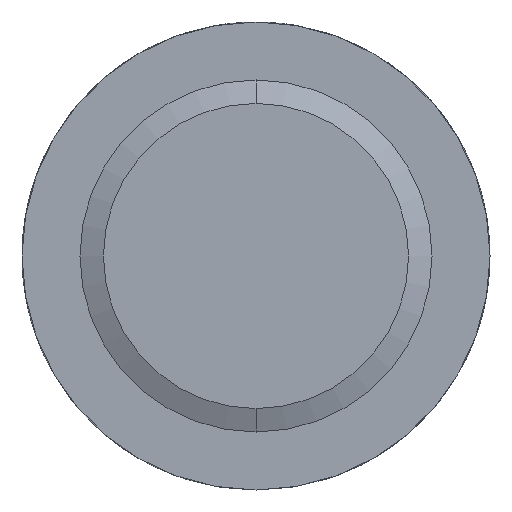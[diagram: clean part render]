
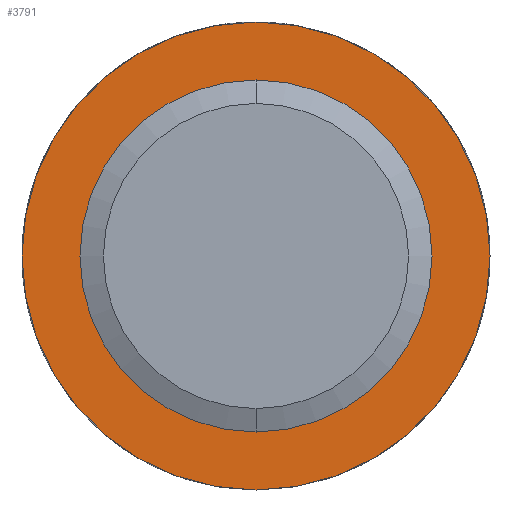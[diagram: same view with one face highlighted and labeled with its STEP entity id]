
A CAD part, front view. The second image highlights one B-rep face of the part: STEP entity #3791.
In plain terms, the highlighted planar face has unit normal (0, -1, 0).
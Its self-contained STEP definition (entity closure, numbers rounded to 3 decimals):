
#135 = EDGE_LOOP ( 'NONE', ( #594, #7916 ) ) ;
#295 = CARTESIAN_POINT ( 'NONE',  ( 1135., -29.25, 1630. ) ) ;
#356 = VERTEX_POINT ( 'NONE', #295 ) ;
#505 = EDGE_LOOP ( 'NONE', ( #4054, #1039 ) ) ;
#594 = ORIENTED_EDGE ( 'NONE', *, *, #2174, .T. ) ;
#620 = CIRCLE ( 'NONE', #1847, 79.75 ) ;
#688 = DIRECTION ( 'NONE',  ( 0., -1., 0. ) ) ;
#749 = AXIS2_PLACEMENT_3D ( 'NONE', #5876, #5902, #5854 ) ;
#1039 = ORIENTED_EDGE ( 'NONE', *, *, #2110, .T. ) ;
#1323 = AXIS2_PLACEMENT_3D ( 'NONE', #7542, #7535, #7525 ) ;
#1573 = AXIS2_PLACEMENT_3D ( 'NONE', #2178, #7566, #7515 ) ;
#1847 = AXIS2_PLACEMENT_3D ( 'NONE', #6750, #688, #5870 ) ;
#1861 = AXIS2_PLACEMENT_3D ( 'NONE', #1976, #1952, #2171 ) ;
#1902 = VERTEX_POINT ( 'NONE', #3117 ) ;
#1952 = DIRECTION ( 'NONE',  ( 0., 1., 0. ) ) ;
#1976 = CARTESIAN_POINT ( 'NONE',  ( 1135., -29.25, 1570. ) ) ;
#2110 = EDGE_CURVE ( 'NONE', #1902, #356, #3215, .T. ) ;
#2171 = DIRECTION ( 'NONE',  ( 0., 0., 1. ) ) ;
#2174 = EDGE_CURVE ( 'NONE', #7169, #7772, #620, .T. ) ;
#2178 = CARTESIAN_POINT ( 'NONE',  ( 1135., -29.25, 1570. ) ) ;
#2389 = EDGE_CURVE ( 'NONE', #7772, #7169, #3578, .T. ) ;
#2793 = FACE_OUTER_BOUND ( 'NONE', #135, .T. ) ;
#2962 = CIRCLE ( 'NONE', #1323, 60. ) ;
#3117 = CARTESIAN_POINT ( 'NONE',  ( 1135., -29.25, 1510. ) ) ;
#3215 = CIRCLE ( 'NONE', #1861, 60. ) ;
#3578 = CIRCLE ( 'NONE', #1573, 79.75 ) ;
#3791 = ADVANCED_FACE ( 'NONE', ( #7497, #2793 ), #5861, .F. ) ;
#4054 = ORIENTED_EDGE ( 'NONE', *, *, #7025, .T. ) ;
#4158 = CARTESIAN_POINT ( 'NONE',  ( 1135., -29.25, 1490.25 ) ) ;
#5854 = DIRECTION ( 'NONE',  ( 0., 0., 1. ) ) ;
#5861 = PLANE ( 'NONE',  #749 ) ;
#5870 = DIRECTION ( 'NONE',  ( 0., 0., 1. ) ) ;
#5876 = CARTESIAN_POINT ( 'NONE',  ( 1075., -29.25, 1570. ) ) ;
#5902 = DIRECTION ( 'NONE',  ( 0., 1., 0. ) ) ;
#6609 = CARTESIAN_POINT ( 'NONE',  ( 1135., -29.25, 1649.75 ) ) ;
#6750 = CARTESIAN_POINT ( 'NONE',  ( 1135., -29.25, 1570. ) ) ;
#7025 = EDGE_CURVE ( 'NONE', #356, #1902, #2962, .T. ) ;
#7169 = VERTEX_POINT ( 'NONE', #6609 ) ;
#7497 = FACE_BOUND ( 'NONE', #505, .T. ) ;
#7515 = DIRECTION ( 'NONE',  ( 0., 0., 1. ) ) ;
#7525 = DIRECTION ( 'NONE',  ( 0., 0., 1. ) ) ;
#7535 = DIRECTION ( 'NONE',  ( 0., 1., 0. ) ) ;
#7542 = CARTESIAN_POINT ( 'NONE',  ( 1135., -29.25, 1570. ) ) ;
#7566 = DIRECTION ( 'NONE',  ( 0., -1., 0. ) ) ;
#7772 = VERTEX_POINT ( 'NONE', #4158 ) ;
#7916 = ORIENTED_EDGE ( 'NONE', *, *, #2389, .T. ) ;
